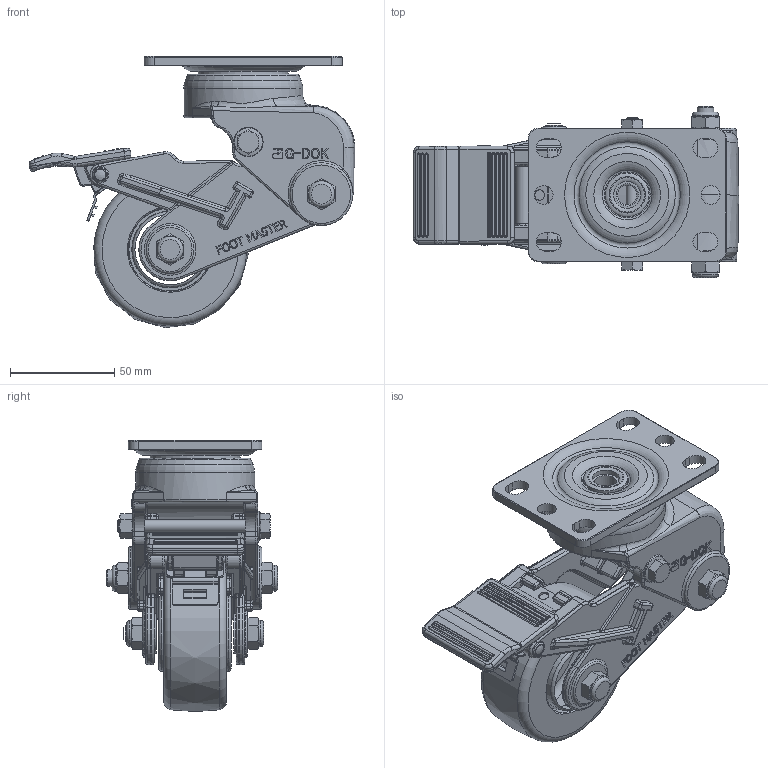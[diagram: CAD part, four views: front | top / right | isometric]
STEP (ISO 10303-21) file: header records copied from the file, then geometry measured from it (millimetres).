
FILE_DESCRIPTION(/* description */ (''),/* implementation_level */ '2;1');
FILE_NAME(/* name */ '\\192.168.10.38\지덕공유\1.기술연구소\2.연구개발 진행중\135.GDS-75_브레이크 검토건_2025.11.20\1.도면\2.3D\홈페이지용\2026.8.13\GDS-75 B F US TYPE_20260813.stp',/* time_stamp */ '2026-08-13T14:58:55+09:00',/* author */ ('admin'),/* organization */ (''),/* preprocessor_version */ 'ST-DEVELOPER v18.1',/* originating_system */ 'Autodesk Inventor 2021',/* authorisation */ '');
FILE_SCHEMA (('AUTOMOTIVE_DESIGN { 1 0 10303 214 3 1 1 }'));
Products named in the file (1): GDS-75 B F US TYPE_20260813
Bounding box: 156.05 x 82 x 129.93 mm (x, y, z)
Volume: 337936.9 mm3; surface area: 94758.2 mm2
Topology: 1 solids, 1 shells, 2132 faces, 5263 edges, 3164 vertices
Faces by surface type: plane 678, bspline 606, cylinder 537, cone 140, torus 102, sphere 69
Full cylindrical faces by diameter (mm): 2.5 x1, 4 x1, 4.2 x2, 5 x1, 6 x2, 7.95 x2, 9 x2, 9.3 x1, 10 x1, 10.7 x1, 10.8 x3, 11.6 x1, 12.5 x4, 13 x1, 14 x1, 21 x1, 43 x1, 57 x1
Entity records: 86790 total; most frequent: CARTESIAN_POINT 39538, ORIENTED_EDGE 10406, DIRECTION 8938, EDGE_CURVE 5203, AXIS2_PLACEMENT_3D 3297, VERTEX_POINT 3164, LINE 2344, VECTOR 2344
